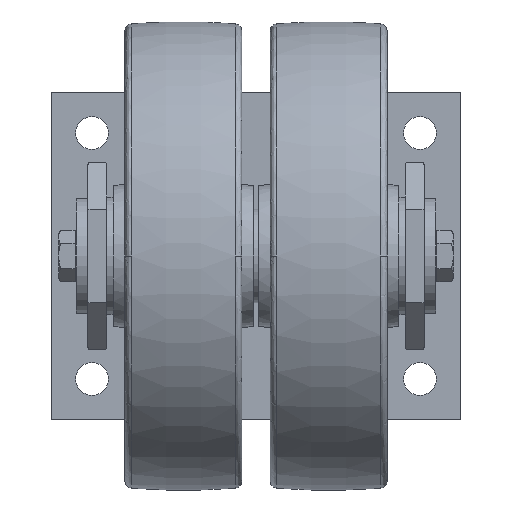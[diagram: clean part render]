
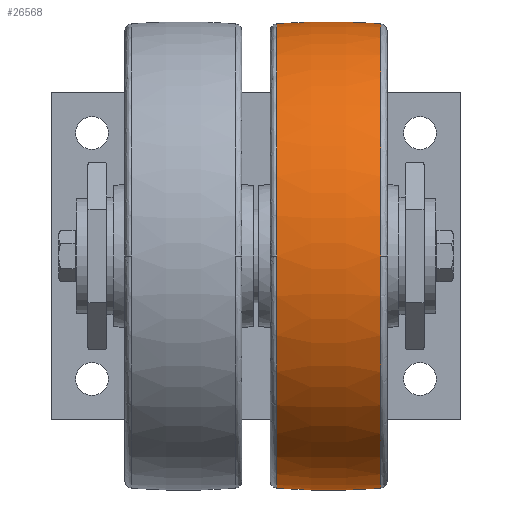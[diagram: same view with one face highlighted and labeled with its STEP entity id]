
A CAD part, front view. The second image highlights one B-rep face of the part: STEP entity #26568.
In plain terms, the highlighted toroidal (fillet/blend) face has major radius 200 mm and minor radius 300 mm.
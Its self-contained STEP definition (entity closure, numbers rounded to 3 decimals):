
#1337 = CARTESIAN_POINT ( 'NONE',  ( -22.222, -99.176, 0. ) ) ;
#1344 = CARTESIAN_POINT ( 'NONE',  ( 22.222, 0., 99.176 ) ) ;
#1367 = CARTESIAN_POINT ( 'NONE',  ( -22.222, 0., 99.176 ) ) ;
#1373 = CARTESIAN_POINT ( 'NONE',  ( -22.222, 0., -99.176 ) ) ;
#1401 = CARTESIAN_POINT ( 'NONE',  ( 22.222, -99.176, 0. ) ) ;
#1405 = CARTESIAN_POINT ( 'NONE',  ( 22.222, 0., -99.176 ) ) ;
#2527 = EDGE_CURVE ( 'NONE', #55173, #55209, #10774, .T. ) ;
#2533 = EDGE_CURVE ( 'NONE', #55241, #55237, #10790, .T. ) ;
#2590 = EDGE_CURVE ( 'NONE', #55203, #55180, #10838, .T. ) ;
#2595 = EDGE_CURVE ( 'NONE', #55209, #55241, #10840, .T. ) ;
#4171 = EDGE_CURVE ( 'NONE', #55237, #55180, #36438, .T. ) ;
#4172 = EDGE_CURVE ( 'NONE', #55203, #55173, #36441, .T. ) ;
#7893 = ORIENTED_EDGE ( 'NONE', *, *, #2590, .F. ) ;
#7895 = ORIENTED_EDGE ( 'NONE', *, *, #4172, .T. ) ;
#7898 = ORIENTED_EDGE ( 'NONE', *, *, #2527, .T. ) ;
#7900 = ORIENTED_EDGE ( 'NONE', *, *, #2595, .T. ) ;
#7903 = ORIENTED_EDGE ( 'NONE', *, *, #2533, .T. ) ;
#7905 = ORIENTED_EDGE ( 'NONE', *, *, #4171, .T. ) ;
#8464 = EDGE_LOOP ( 'NONE', ( #7893, #7895, #7898, #7900, #7903, #7905 ) ) ;
#10032 = AXIS2_PLACEMENT_3D ( 'NONE', #22052, #22078, #22080 ) ;
#10774 = CIRCLE ( 'NONE', #41951, 99.176 ) ;
#10790 = CIRCLE ( 'NONE', #41955, 99.176 ) ;
#10838 = CIRCLE ( 'NONE', #41995, 300. ) ;
#10840 = CIRCLE ( 'NONE', #41997, 300. ) ;
#13845 = CARTESIAN_POINT ( 'NONE',  ( 0., 0., -200. ) ) ;
#13847 = DIRECTION ( 'NONE',  ( 0., 1., 0. ) ) ;
#13849 = DIRECTION ( 'NONE',  ( 0., 0., 1. ) ) ;
#13864 = CARTESIAN_POINT ( 'NONE',  ( 0., 0., 200. ) ) ;
#13866 = DIRECTION ( 'NONE',  ( 0., -1., 0. ) ) ;
#13868 = DIRECTION ( 'NONE',  ( 0., 0., -1. ) ) ;
#22052 = CARTESIAN_POINT ( 'NONE',  ( 0., 0., 0. ) ) ;
#22078 = DIRECTION ( 'NONE',  ( 1., 0., 0. ) ) ;
#22080 = DIRECTION ( 'NONE',  ( 0., 0., -1. ) ) ;
#26568 = ADVANCED_FACE ( 'NONE', ( #27182 ), #27187, .T. ) ;
#27182 = FACE_OUTER_BOUND ( 'NONE', #8464, .T. ) ;
#27187 = TOROIDAL_SURFACE ( 'NONE', #10032, -200., 300. ) ;
#32495 = CARTESIAN_POINT ( 'NONE',  ( 22.222, 0., 0. ) ) ;
#32497 = DIRECTION ( 'NONE',  ( -1., 0., 0. ) ) ;
#32499 = DIRECTION ( 'NONE',  ( 0., -1., 0. ) ) ;
#32503 = CARTESIAN_POINT ( 'NONE',  ( -22.222, 0., 0. ) ) ;
#32505 = DIRECTION ( 'NONE',  ( 1., 0., 0. ) ) ;
#32507 = DIRECTION ( 'NONE',  ( 0., 1., 0. ) ) ;
#36438 = CIRCLE ( 'NONE', #42024, 99.176 ) ;
#36441 = CIRCLE ( 'NONE', #42025, 99.176 ) ;
#41951 = AXIS2_PLACEMENT_3D ( 'NONE', #43210, #43212, #43213 ) ;
#41955 = AXIS2_PLACEMENT_3D ( 'NONE', #43249, #43251, #43252 ) ;
#41995 = AXIS2_PLACEMENT_3D ( 'NONE', #13845, #13847, #13849 ) ;
#41997 = AXIS2_PLACEMENT_3D ( 'NONE', #13864, #13866, #13868 ) ;
#42024 = AXIS2_PLACEMENT_3D ( 'NONE', #32495, #32497, #32499 ) ;
#42025 = AXIS2_PLACEMENT_3D ( 'NONE', #32503, #32505, #32507 ) ;
#43210 = CARTESIAN_POINT ( 'NONE',  ( -22.222, 0., 0. ) ) ;
#43212 = DIRECTION ( 'NONE',  ( 1., 0., 0. ) ) ;
#43213 = DIRECTION ( 'NONE',  ( 0., 1., 0. ) ) ;
#43249 = CARTESIAN_POINT ( 'NONE',  ( 22.222, 0., 0. ) ) ;
#43251 = DIRECTION ( 'NONE',  ( -1., 0., 0. ) ) ;
#43252 = DIRECTION ( 'NONE',  ( 0., -1., 0. ) ) ;
#55173 = VERTEX_POINT ( 'NONE', #1337 ) ;
#55180 = VERTEX_POINT ( 'NONE', #1344 ) ;
#55203 = VERTEX_POINT ( 'NONE', #1367 ) ;
#55209 = VERTEX_POINT ( 'NONE', #1373 ) ;
#55237 = VERTEX_POINT ( 'NONE', #1401 ) ;
#55241 = VERTEX_POINT ( 'NONE', #1405 ) ;
